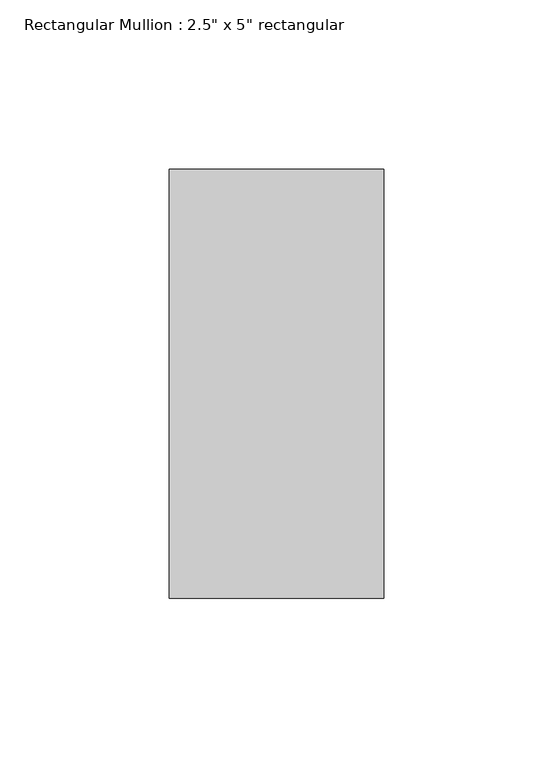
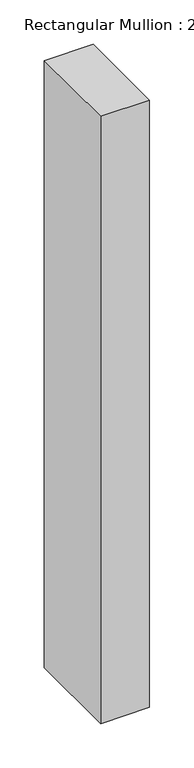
"""IFC4 building model written with IfcOpenShell, lengths in millimetres: member geometry."""

from ifc_helpers import new_model, si_unit, frame, origin, place, context, project, spatial, polyline, outline, extrude, source, transform, mapped, element, save


def member_6aaa016f(model_context):
    return source(origin(), model_context, "Body", "SweptSolid", [
        extrude(outline(polyline([(31.75, 63.5), (31.75, -63.5), (-31.75, -63.5), (-31.75, 63.5), (31.75, 63.5)])), frame((0.0, 0.0, -835.4911417), z_axis=(0.0, 0.0, 1.0), x_axis=(1.0, 0.0, 0.0)), (0.0, 0.0, 1.0), 835.4911417),
    ])


if __name__ == "__main__":
    model = new_model("IFC4")
    model_context = context("Model", 3, world=origin())
    ifc_project = project(units=[si_unit("LENGTHUNIT", "METRE", prefix="MILLI")], contexts=[model_context])
    site = spatial("IfcSite", under=ifc_project)
    building = spatial("IfcBuilding", under=site)
    placement = place(None, origin())
    member_shape = member_6aaa016f(model_context)
    element("IfcMember", 1, ObjectType="Rectangular Mullion : 2.5\" x 5\" rectangular", at=placement, inside=building, context=model_context, shape_type="MappedRepresentation", body=[
        mapped(member_shape, transform((0.0, 0.0, 0.0), x_axis=(1.0, 0.0, 0.0), y_axis=(0.0, 1.0, 0.0), z_axis=(0.0, 0.0, 1.0))),
    ])
    save(model, "model.ifc")
